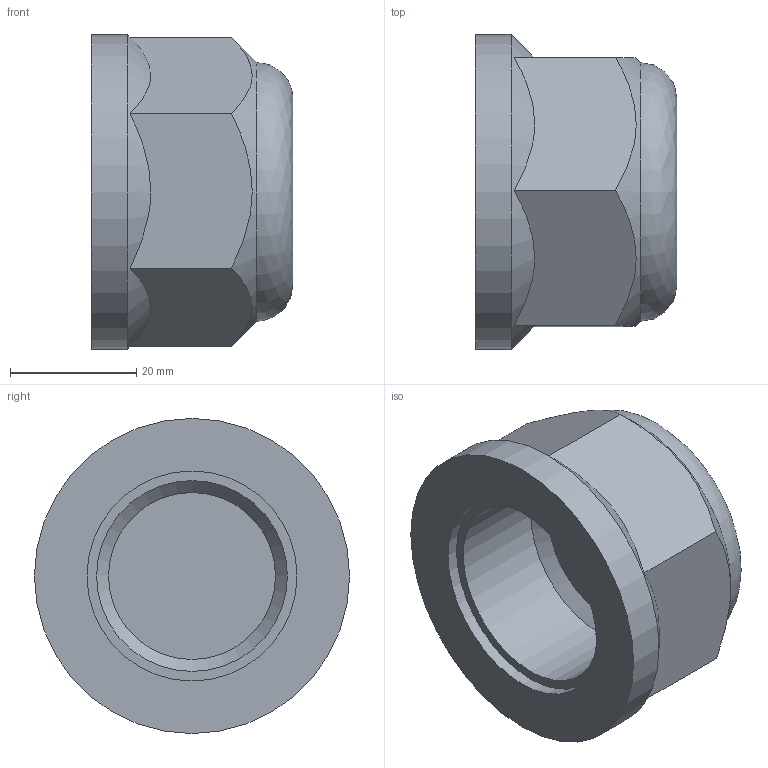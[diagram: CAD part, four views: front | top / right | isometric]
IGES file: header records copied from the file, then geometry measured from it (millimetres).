
Global section: file name: 050707010_0507070100A.ipt; native system: Autodesk Inventor 2015; preprocessor: unknown; author: KIM; date: 20170618.093305; units: millimetre
Bounding box: 32 x 50 x 50 mm (x, y, z)
Volume: 36585.3 mm3; surface area: 9579.3 mm2
Topology: 1 solids, 1 shells, 17 faces, 55 edges, 42 vertices
Faces by surface type: plane 10, revolution 4, cone 2, cylinder 1
Full cylindrical faces by diameter (mm): 50 x1
